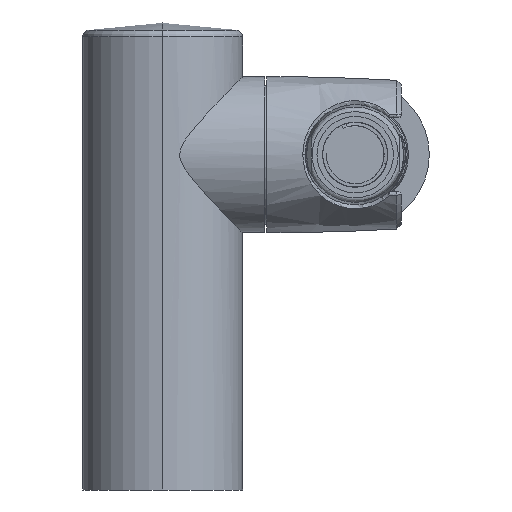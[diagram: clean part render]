
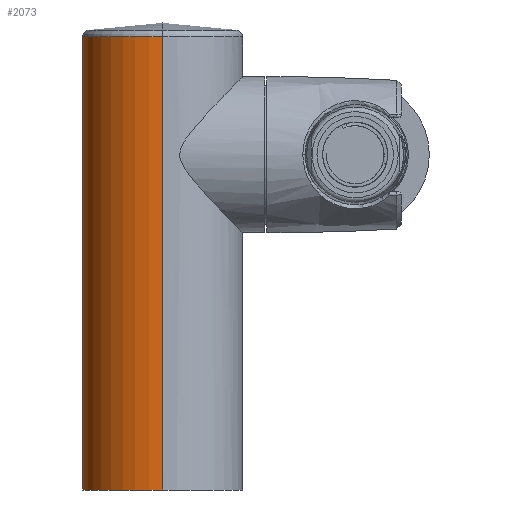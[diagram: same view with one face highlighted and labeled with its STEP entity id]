
A CAD part, front view. The second image highlights one B-rep face of the part: STEP entity #2073.
In plain terms, the highlighted cylindrical face has radius 17.25 mm (diameter 34.5 mm), a partial arc.
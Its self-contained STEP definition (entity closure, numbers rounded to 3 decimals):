
#586=DIRECTION('',(0.,0.,1.));
#587=VECTOR('',#586,97.802);
#588=CARTESIAN_POINT('',(0.,17.25,0.));
#589=LINE('',#588,#587);
#595=DIRECTION('',(0.,0.,1.));
#596=VECTOR('',#595,97.802);
#597=CARTESIAN_POINT('',(0.,-17.25,0.));
#598=LINE('',#597,#596);
#713=CARTESIAN_POINT('',(0.,0.,97.802));
#714=DIRECTION('',(0.,0.,1.));
#715=DIRECTION('',(0.,1.,0.));
#716=AXIS2_PLACEMENT_3D('',#713,#714,#715);
#718=CARTESIAN_POINT('',(0.,0.,0.));
#719=DIRECTION('',(0.,0.,1.));
#720=DIRECTION('',(0.,1.,0.));
#721=AXIS2_PLACEMENT_3D('',#718,#719,#720);
#731=CARTESIAN_POINT('',(0.,17.25,0.));
#732=CARTESIAN_POINT('',(0.,-17.25,0.));
#733=VERTEX_POINT('',#731);
#734=VERTEX_POINT('',#732);
#739=CARTESIAN_POINT('',(0.,17.25,97.802));
#740=CARTESIAN_POINT('',(0.,-17.25,97.802));
#741=VERTEX_POINT('',#739);
#742=VERTEX_POINT('',#740);
#2061=CARTESIAN_POINT('',(0.,0.,-5.05));
#2062=DIRECTION('',(0.,0.,1.));
#2063=DIRECTION('',(0.,1.,0.));
#2064=AXIS2_PLACEMENT_3D('',#2061,#2062,#2063);
#2065=CYLINDRICAL_SURFACE('',#2064,17.25);
#2066=ORIENTED_EDGE('',*,*,#2055,.T.);
#2067=ORIENTED_EDGE('',*,*,#1998,.F.);
#2069=ORIENTED_EDGE('',*,*,#2068,.F.);
#2070=ORIENTED_EDGE('',*,*,#1994,.T.);
#2071=EDGE_LOOP('',(#2066,#2067,#2069,#2070));
#2072=FACE_OUTER_BOUND('',#2071,.F.);
#2073=ADVANCED_FACE('',(#2072),#2065,.T.);
#717=CIRCLE('',#716,17.25);
#722=CIRCLE('',#721,17.25);
#1994=EDGE_CURVE('',#733,#741,#589,.T.);
#1998=EDGE_CURVE('',#734,#742,#598,.T.);
#2055=EDGE_CURVE('',#741,#742,#717,.T.);
#2068=EDGE_CURVE('',#733,#734,#722,.T.);
